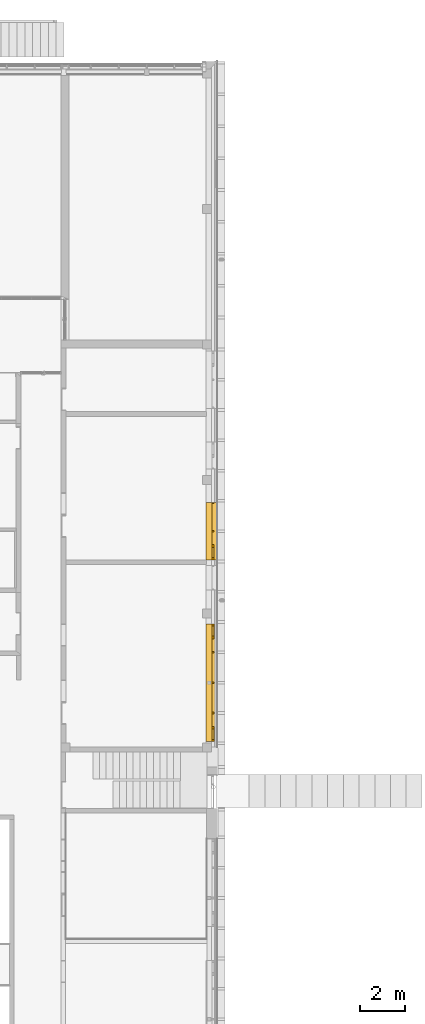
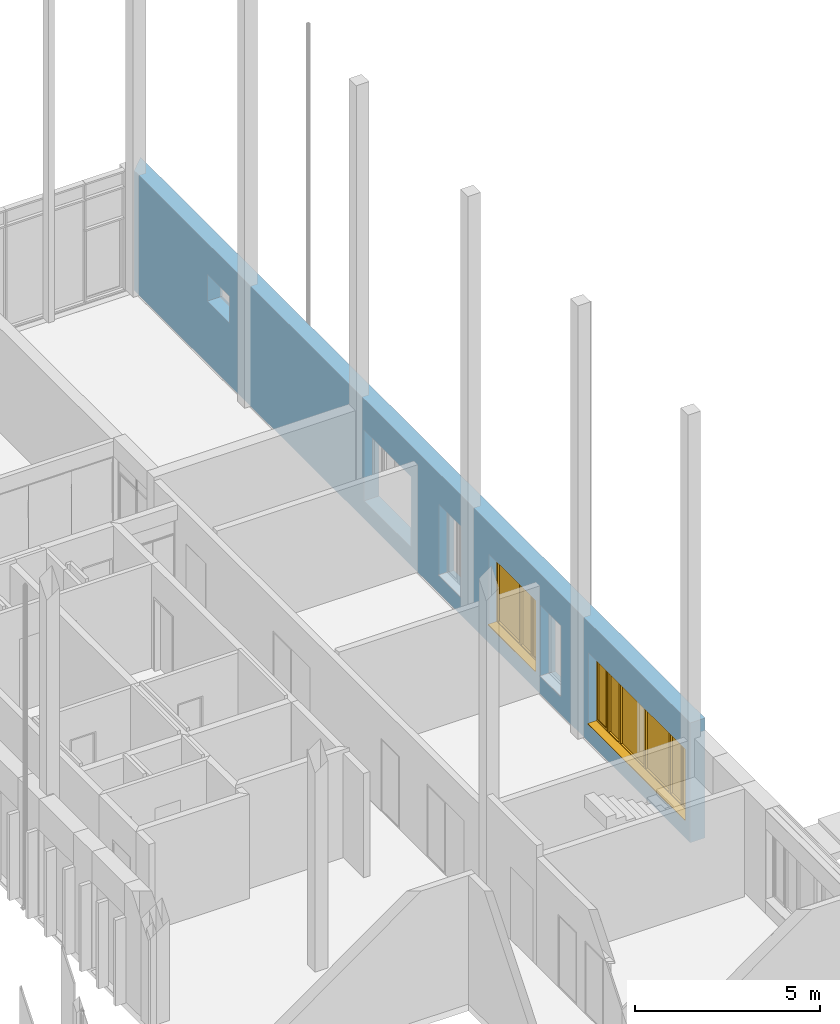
# One storey, part 41 of 89: 2 windows, 6 openings, plus 1 element that does not belong to this part.
"""IFC2X3 building model written with IfcOpenShell, lengths in millimetres."""

from ifc_helpers import new_model, entity, si_unit, converted_unit, derived_unit, money_unit, direction, frame, origin_with_axes, origin_2d_with_axis, place, context, subcontext, project, spatial, polyline, rectangle, outline, extrude, open_shell, faceted_brep, surface_model, material, layer, layer_set, layer_usage, type_object, element, fill, save


model = new_model("IFC2X3")

# Units and contexts
model_context = context("Model", 3, precision=0.01, world=origin_with_axes(), true_north=direction((0.0, 1.0)))
body_context = subcontext(model_context, "Body", "Model", "MODEL_VIEW")
ifc_project = project(units=[si_unit("LENGTHUNIT", "METRE", prefix="MILLI"), si_unit("AREAUNIT", "SQUARE_METRE"), si_unit("VOLUMEUNIT", "CUBIC_METRE"), converted_unit("PLANEANGLEUNIT", "DEGREE", entity("IfcPlaneAngleMeasure", 0.0174532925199), si_unit("PLANEANGLEUNIT", "RADIAN"), dimensions=[0, 0, 0, 0, 0, 0, 0]), si_unit("SOLIDANGLEUNIT", "STERADIAN"), money_unit("EUR"), converted_unit("TIMEUNIT", "Year", entity("IfcTimeMeasure", 31556926.0), si_unit("TIMEUNIT", "SECOND"), dimensions=[0, 0, 1, 0, 0, 0, 0]), si_unit("MASSUNIT", "GRAM", prefix="KILO"), si_unit("THERMODYNAMICTEMPERATUREUNIT", "DEGREE_CELSIUS"), si_unit("LUMINOUSINTENSITYUNIT", "LUMEN"), si_unit("ENERGYUNIT", "JOULE", prefix="MEGA"), derived_unit("THERMALCONDUCTANCEUNIT", [(si_unit("POWERUNIT", "WATT"), 1), (si_unit("LENGTHUNIT", "METRE"), -1), (si_unit("THERMODYNAMICTEMPERATUREUNIT", "KELVIN"), -1)]), derived_unit("SPECIFICHEATCAPACITYUNIT", [(si_unit("ENERGYUNIT", "JOULE"), 1), (si_unit("MASSUNIT", "GRAM", prefix="KILO"), -1), (si_unit("THERMODYNAMICTEMPERATUREUNIT", "KELVIN"), -1)]), derived_unit("MASSDENSITYUNIT", [(si_unit("MASSUNIT", "GRAM", prefix="KILO"), 1), (si_unit("VOLUMEUNIT", "CUBIC_METRE"), -1)])], contexts=[model_context])

# Site, building, storey
site_placement = place(None, origin_with_axes())
site = spatial("IfcSite", under=ifc_project, at=site_placement, Name="Puškini 31, Narva", CompositionType="ELEMENT")
building_placement = place(site_placement, origin_with_axes())
building = spatial("IfcBuilding", under=site, at=building_placement, Name="Narva Riigigümnaasium", CompositionType="ELEMENT")
storey_placement = place(building_placement, frame((0.0, 0.0, -3300.0), z_axis=(0.0, 0.0, 1.0), x_axis=(1.0, 0.0, 0.0)))
storey = spatial("IfcBuildingStorey", under=building, at=storey_placement, Name="1.korrus -3.3", CompositionType="ELEMENT", Elevation=-3300.0)

# Wall, openings, windows
ifc_material_1 = material(Name="fassaadiplaat")
ifc_layer_1 = layer(ifc_material_1, 8.0, ventilated="UNKNOWN")
ifc_material_2 = material(Name="Salto-roovitus")
ifc_layer_2 = layer(ifc_material_2, 50.0, ventilated="UNKNOWN")
ifc_material_3 = material(Name="Salto-PIR soojustus")
ifc_layer_3 = layer(ifc_material_3, 50.0, ventilated="UNKNOWN")
ifc_layer_4 = layer(ifc_material_3, 150.0, ventilated="UNKNOWN")
ifc_material_4 = material(Name="Betoon element")
ifc_layer_5 = layer(ifc_material_4, 200.0, ventilated="UNKNOWN")
ifc_material_5 = material(Name="Salto-siseviimistlus-seinad")
ifc_layer_6 = layer(ifc_material_5, 10.0, ventilated="UNKNOWN")
ifc_layer_set = layer_set([ifc_layer_1, ifc_layer_2, ifc_layer_3, ifc_layer_4, ifc_layer_5, ifc_layer_6], Name="G-VS-01")
ifc_layer_usage = layer_usage(ifc_layer_set, "AXIS2", "NEGATIVE", 458.0)
wall_type = type_object("IfcWallType", Name="G-VS-01 468", PredefinedType="NOTDEFINED")
wall_placement = place(storey_placement, frame((54000.0000017, 254108.805854, 0.0), z_axis=(0.0, 0.0, 1.0), x_axis=(0.0, -1.0, 0.0)))
wall = element("IfcWallStandardCase", 1, at=wall_placement, inside=storey, type_object=wall_type, material=ifc_layer_usage, Name="Välissein", context=body_context, shape_type="SweptSolid", body=[
    extrude(outline(polyline([(9.99999999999, -10.0), (30098.8058544, -10.0), (30098.8058544, 458.0), (-458.0, 458.0), (9.99999999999, -10.0)])), origin_with_axes(), (0.0, 0.0, 1.0), 3959.99999955),
])
opening_1_placement = place(wall_placement, frame((27228.5691061, 0.0, 600.0), z_axis=(0.0, 0.0, 1.0), x_axis=(1.0, 0.0, 0.0)))
opening_1 = element("IfcOpeningElement", 2, at=opening_1_placement, cuts=wall, Name="G-A-25", context=body_context, shape_type="SweptSolid", body=[
    extrude(rectangle(XDim=5250.0, YDim=2340.0, at=origin_2d_with_axis()), frame((0.0, 308.0, 1170.0), z_axis=(0.0, -1.0, 0.0), x_axis=(1.0, 0.0, 0.0)), (0.0, 0.0, 1.0), 786.0),
    extrude(rectangle(XDim=5250.0, YDim=2340.0, at=origin_2d_with_axis()), frame((0.0, 308.0, 1170.0), z_axis=(0.0, 1.0, 0.0), x_axis=(1.0, 0.0, 0.0)), (0.0, 0.0, 1.0), 618.0),
])
opening_2_placement = place(wall_placement, frame((20478.5691061, 0.0, 600.0), z_axis=(0.0, 0.0, 1.0), x_axis=(1.0, 0.0, 0.0)))
opening_2 = element("IfcOpeningElement", 3, at=opening_2_placement, cuts=wall, Name="G-A-15", context=body_context, shape_type="SweptSolid", body=[
    extrude(rectangle(XDim=2550.0, YDim=2340.0, at=origin_2d_with_axis()), frame((0.0, 308.0, 1170.0), z_axis=(0.0, 1.0, 0.0), x_axis=(-1.0, 0.0, 0.0)), (0.0, 0.0, -1.0), 786.0),
    extrude(rectangle(XDim=2550.0, YDim=2340.0, at=origin_2d_with_axis()), frame((0.0, 308.0, 1170.0), z_axis=(0.0, -1.0, 0.0), x_axis=(-1.0, 0.0, 0.0)), (0.0, 0.0, -1.0), 618.0),
])
opening_3_placement = place(wall_placement, frame((17103.5691061, 0.0, 600.0), z_axis=(0.0, 0.0, 1.0), x_axis=(1.0, 0.0, 0.0)))
element("IfcOpeningElement", 4, at=opening_3_placement, cuts=wall, Name="G-A-06", context=body_context, shape_type="SweptSolid", body=[
    extrude(rectangle(XDim=1200.0, YDim=2340.0, at=origin_2d_with_axis()), frame((0.0, 308.0, 1170.0), z_axis=(0.0, -1.0, 0.0), x_axis=(1.0, 0.0, 0.0)), (0.0, 0.0, 1.0), 786.0),
    extrude(rectangle(XDim=1200.0, YDim=2340.0, at=origin_2d_with_axis()), frame((0.0, 308.0, 1170.0), z_axis=(0.0, 1.0, 0.0), x_axis=(1.0, 0.0, 0.0)), (0.0, 0.0, 1.0), 618.0),
])
opening_4_placement = place(wall_placement, frame((13728.5691061, 0.0, 600.0), z_axis=(0.0, 0.0, 1.0), x_axis=(1.0, 0.0, 0.0)))
element("IfcOpeningElement", 5, at=opening_4_placement, cuts=wall, Name="G-A-15", context=body_context, shape_type="SweptSolid", body=[
    extrude(rectangle(XDim=2550.0, YDim=2340.0, at=origin_2d_with_axis()), frame((0.0, 308.0, 1170.0), z_axis=(0.0, -1.0, 0.0), x_axis=(1.0, 0.0, 0.0)), (0.0, 0.0, 1.0), 786.0),
    extrude(rectangle(XDim=2550.0, YDim=2340.0, at=origin_2d_with_axis()), frame((0.0, 308.0, 1170.0), z_axis=(0.0, 1.0, 0.0), x_axis=(1.0, 0.0, 0.0)), (0.0, 0.0, 1.0), 618.0),
])
opening_5_placement = place(wall_placement, frame((22553.5691061, 0.0, 600.0), z_axis=(0.0, 0.0, 1.0), x_axis=(1.0, 0.0, 0.0)))
element("IfcOpeningElement", 6, at=opening_5_placement, cuts=wall, Name="G-A-35", context=body_context, shape_type="SweptSolid", body=[
    extrude(rectangle(XDim=1100.0, YDim=2340.0, at=origin_2d_with_axis()), frame((0.0, 308.0, 1170.0), z_axis=(0.0, -1.0, 0.0), x_axis=(1.0, 0.0, 0.0)), (0.0, 0.0, 1.0), 786.0),
    extrude(rectangle(XDim=1100.0, YDim=2340.0, at=origin_2d_with_axis()), frame((0.0, 308.0, 1170.0), z_axis=(0.0, 1.0, 0.0), x_axis=(1.0, 0.0, 0.0)), (0.0, 0.0, 1.0), 618.0),
])
opening_6_placement = place(wall_placement, frame((4563.8084994, 0.0, 2049.99999046), z_axis=(0.0, 0.0, 1.0), x_axis=(1.0, 0.0, 0.0)))
element("IfcOpeningElement", 7, at=opening_6_placement, cuts=wall, Name="G-SL-02", context=body_context, shape_type="SweptSolid", body=[
    extrude(rectangle(XDim=1190.0, YDim=890.0, at=origin_2d_with_axis()), frame((0.0, -468.0, 445.0), z_axis=(0.0, -1.0, 0.0), x_axis=(-1.0, 0.0, 0.0)), (0.0, 0.0, -1.0), 1404.0),
])
window_style_1 = type_object("IfcWindowStyle", Name="Horizontal Multi-Sash Window 23", ConstructionType="NOTDEFINED", OperationType="USERDEFINED", ParameterTakesPrecedence=False, Sizeable=False)
window_1_placement = place(opening_1_placement, frame((2625.0, 0.0, 0.0), z_axis=(0.0, 0.0, 1.0), x_axis=(-1.0, 0.0, 0.0)))
window_1 = element("IfcWindow", 8, at=window_1_placement, inside=storey, type_object=window_style_1, Name="G-A-25", ObjectType="WINDOW", OverallHeight=2340.0, OverallWidth=5250.0, context=body_context, shape_type="SurfaceModel", body=[
    surface_model("IfcShellBasedSurfaceModel", [(5250.0, -309.0, 50.0), (0.0, -309.0, 50.0), (0.0, -309.0, 40.0), (5250.0, -309.0, 40.0), (0.0, -488.0, 28.0), (5250.0, -488.0, 28.0), (0.0, -488.0, 8.0), (5250.0, -488.0, 8.0), (0.0, -478.0, 18.0), (5250.0, -478.0, 18.0)], [open_shell([[[0, 1, 2, 3]], [[3, 2, 4, 5]], [[5, 4, 6, 7]], [[7, 6, 8, 9]]])]),
    faceted_brep([(0.0, -233.0, 0.0), (0.0, -233.0, 25.0), (0.0, 10.0, 25.0), (0.0, 10.0, 0.0), (5250.0, -233.0, 0.0), (5250.0, -233.0, 25.0), (5250.0, 10.0, 25.0), (5250.0, 40.0, 25.0), (0.0, 40.0, 25.0), (0.0, 40.0, 0.0), (5250.0, 40.0, 0.0), (5250.0, 10.0, 0.0)], [[[0, 1, 2, 3]], [[4, 5, 1, 0]], [[1, 5, 6, 7, 8, 2]], [[3, 2, 8, 9]], [[0, 3, 9, 10, 11, 4]], [[11, 6, 5, 4]], [[10, 7, 6, 11]], [[9, 8, 7, 10]]]),
    faceted_brep([(5210.0, -233.0, 2290.0), (5210.0, -303.0, 2290.0), (5200.0, -303.0, 2290.0), (5200.0, -308.0, 2290.0), (5250.0, -308.0, 2290.0), (5250.0, -233.0, 2290.0), (5210.0, -233.0, 50.0), (5210.0, -303.0, 50.0), (5200.0, -303.0, 50.0), (5200.0, -308.0, 50.0), (5250.0, -308.0, 50.0), (5250.0, -233.0, 50.0)], [[[0, 1, 2, 3, 4, 5]], [[1, 0, 6, 7]], [[8, 2, 1, 7]], [[2, 8, 9, 3]], [[4, 3, 9, 10]], [[5, 4, 10, 11]], [[6, 0, 5, 11]], [[7, 6, 11, 10, 9, 8]]]),
    faceted_brep([(50.0, -303.0, 2290.0), (40.0, -303.0, 2290.0), (40.0, -233.0, 2290.0), (0.0, -233.0, 2290.0), (0.0, -308.0, 2290.0), (50.0, -308.0, 2290.0), (50.0, -303.0, 50.0), (40.0, -303.0, 50.0), (40.0, -233.0, 50.0), (0.0, -233.0, 50.0), (0.0, -308.0, 50.0), (50.0, -308.0, 50.0)], [[[0, 1, 2, 3, 4, 5]], [[1, 0, 6, 7]], [[8, 2, 1, 7]], [[2, 8, 9, 3]], [[9, 10, 4, 3]], [[10, 11, 5, 4]], [[6, 0, 5, 11]], [[7, 6, 11, 10, 9, 8]]]),
    faceted_brep([(5210.0, -233.0, 2290.0), (5210.0, -233.0, 2300.0), (4639.5, -233.0, 2300.0), (4639.5, -233.0, 2290.0), (4574.5, -233.0, 2290.0), (4012.5, -233.0, 2290.0), (3937.5, -233.0, 2290.0), (2662.5, -233.0, 2290.0), (2587.5, -233.0, 2290.0), (1312.5, -233.0, 2290.0), (1237.5, -233.0, 2290.0), (675.5, -233.0, 2290.0), (610.5, -233.0, 2290.0), (610.5, -233.0, 2300.0), (40.0, -233.0, 2300.0), (40.0, -233.0, 2290.0), (0.0, -233.0, 2290.0), (0.0, -233.0, 2340.0), (5250.0, -233.0, 2340.0), (5250.0, -233.0, 2290.0), (5210.0, -303.0, 2290.0), (5210.0, -303.0, 2300.0), (4639.5, -303.0, 2300.0), (4639.5, -303.0, 2290.0), (4649.5, -303.0, 2290.0), (4649.5, -308.0, 2290.0), (4574.5, -308.0, 2290.0), (4012.5, -308.0, 2290.0), (3937.5, -308.0, 2290.0), (2662.5, -308.0, 2290.0), (2587.5, -308.0, 2290.0), (1312.5, -308.0, 2290.0), (1237.5, -308.0, 2290.0), (675.5, -308.0, 2290.0), (610.5, -303.0, 2290.0), (600.5, -308.0, 2290.0), (600.5, -303.0, 2290.0), (610.5, -303.0, 2300.0), (40.0, -303.0, 2300.0), (40.0, -303.0, 2290.0), (50.0, -303.0, 2290.0), (50.0, -308.0, 2290.0), (0.0, -308.0, 2290.0), (0.0, -308.0, 2340.0), (5250.0, -308.0, 2340.0), (5250.0, -308.0, 2290.0), (5200.0, -308.0, 2290.0), (5200.0, -303.0, 2290.0)], [[[0, 1, 2, 3, 4, 5, 6, 7, 8, 9, 10, 11, 12, 13, 14, 15, 16, 17, 18, 19]], [[1, 0, 20, 21]], [[2, 1, 21, 22]], [[3, 2, 22, 23]], [[23, 24, 25, 26, 4, 3]], [[4, 26, 27, 5]], [[5, 27, 28, 6]], [[6, 28, 29, 7]], [[7, 29, 30, 8]], [[8, 30, 31, 9]], [[9, 31, 32, 10]], [[10, 32, 33, 11]], [[34, 12, 11, 33, 35, 36]], [[13, 12, 34, 37]], [[14, 13, 37, 38]], [[15, 14, 38, 39]], [[39, 40, 41, 42, 16, 15]], [[16, 42, 43, 17]], [[17, 43, 44, 18]], [[18, 44, 45, 19]], [[20, 0, 19, 45, 46, 47]], [[24, 23, 22, 21, 20, 47]], [[24, 47, 46, 25]], [[42, 41, 35, 33, 32, 31, 30, 29, 28, 27, 26, 25, 46, 45, 44, 43]], [[40, 36, 35, 41]], [[40, 39, 38, 37, 34, 36]]]),
    faceted_brep([(4649.5, -303.0, 50.0), (4639.5, -303.0, 50.0), (4639.5, -233.0, 50.0), (4574.5, -233.0, 50.0), (4574.5, -308.0, 50.0), (4649.5, -308.0, 50.0), (5200.0, -303.0, 50.0), (5210.0, -303.0, 50.0), (5210.0, -303.0, 40.0), (4639.5, -303.0, 40.0), (4639.5, -233.0, 40.0), (5210.0, -233.0, 40.0), (5210.0, -233.0, 50.0), (5250.0, -233.0, 50.0), (5250.0, -233.0, 0.0), (0.0, -233.0, 0.0), (0.0, -233.0, 50.0), (40.0, -233.0, 50.0), (40.0, -233.0, 40.0), (610.5, -233.0, 40.0), (610.5, -233.0, 50.0), (675.5, -233.0, 50.0), (1237.5, -233.0, 50.0), (1312.5, -233.0, 50.0), (2587.5, -233.0, 50.0), (2662.5, -233.0, 50.0), (3937.5, -233.0, 50.0), (4012.5, -233.0, 50.0), (4012.5, -308.0, 50.0), (675.5, -308.0, 50.0), (600.5, -308.0, 50.0), (50.0, -308.0, 50.0), (0.0, -308.0, 50.0), (0.0, -308.0, 0.0), (5250.0, -308.0, 0.0), (5250.0, -308.0, 50.0), (5200.0, -308.0, 50.0), (3937.5, -308.0, 50.0), (2662.5, -308.0, 50.0), (2587.5, -308.0, 50.0), (1312.5, -308.0, 50.0), (1237.5, -308.0, 50.0), (50.0, -303.0, 50.0), (40.0, -303.0, 50.0), (40.0, -303.0, 40.0), (610.5, -303.0, 40.0), (610.5, -303.0, 50.0), (600.5, -303.0, 50.0)], [[[0, 1, 2, 3, 4, 5]], [[1, 0, 6, 7, 8, 9]], [[10, 2, 1, 9]], [[11, 12, 13, 14, 15, 16, 17, 18, 19, 20, 21, 22, 23, 24, 25, 26, 27, 3, 2, 10]], [[27, 28, 4, 3]], [[29, 30, 31, 32, 33, 34, 35, 36, 5, 4, 28, 37, 38, 39, 40, 41]], [[6, 0, 5, 36]], [[7, 6, 36, 35, 13, 12]], [[7, 12, 11, 8]], [[11, 10, 9, 8]], [[13, 35, 34, 14]], [[14, 34, 33, 15]], [[15, 33, 32, 16]], [[42, 43, 17, 16, 32, 31]], [[18, 17, 43, 44]], [[19, 18, 44, 45]], [[46, 20, 19, 45]], [[46, 47, 30, 29, 21, 20]], [[21, 29, 41, 22]], [[22, 41, 40, 23]], [[23, 40, 39, 24]], [[24, 39, 38, 25]], [[25, 38, 37, 26]], [[26, 37, 28, 27]], [[47, 42, 31, 30]], [[43, 42, 47, 46, 45, 44]]]),
    faceted_brep([(4649.5, -303.0, 2290.0), (4639.5, -303.0, 2290.0), (4639.5, -233.0, 2290.0), (4574.5, -233.0, 2290.0), (4574.5, -308.0, 2290.0), (4649.5, -308.0, 2290.0), (4649.5, -303.0, 50.0), (4639.5, -303.0, 50.0), (4639.5, -233.0, 50.0), (4574.5, -233.0, 50.0), (4574.5, -308.0, 50.0), (4649.5, -308.0, 50.0)], [[[0, 1, 2, 3, 4, 5]], [[1, 0, 6, 7]], [[8, 2, 1, 7]], [[2, 8, 9, 3]], [[9, 10, 4, 3]], [[4, 10, 11, 5]], [[6, 0, 5, 11]], [[7, 6, 11, 10, 9, 8]]]),
    faceted_brep([(3937.5, -233.0, 50.0), (3937.5, -308.0, 50.0), (3937.5, -308.0, 2290.0), (3937.5, -233.0, 2290.0), (4012.5, -233.0, 50.0), (4012.5, -308.0, 50.0), (4012.5, -308.0, 2290.0), (4012.5, -233.0, 2290.0)], [[[0, 1, 2, 3]], [[4, 5, 1, 0]], [[2, 1, 5, 6]], [[3, 2, 6, 7]], [[4, 0, 3, 7]], [[7, 6, 5, 4]]]),
    faceted_brep([(2587.5, -233.0, 50.0), (2587.5, -308.0, 50.0), (2587.5, -308.0, 2290.0), (2587.5, -233.0, 2290.0), (2662.5, -233.0, 50.0), (2662.5, -308.0, 50.0), (2662.5, -308.0, 2290.0), (2662.5, -233.0, 2290.0)], [[[0, 1, 2, 3]], [[4, 5, 1, 0]], [[2, 1, 5, 6]], [[3, 2, 6, 7]], [[4, 0, 3, 7]], [[7, 6, 5, 4]]]),
    faceted_brep([(1237.5, -233.0, 50.0), (1237.5, -308.0, 50.0), (1237.5, -308.0, 2290.0), (1237.5, -233.0, 2290.0), (1312.5, -233.0, 50.0), (1312.5, -308.0, 50.0), (1312.5, -308.0, 2290.0), (1312.5, -233.0, 2290.0)], [[[0, 1, 2, 3]], [[4, 5, 1, 0]], [[2, 1, 5, 6]], [[3, 2, 6, 7]], [[4, 0, 3, 7]], [[7, 6, 5, 4]]]),
    faceted_brep([(610.5, -233.0, 2290.0), (610.5, -303.0, 2290.0), (600.5, -303.0, 2290.0), (600.5, -308.0, 2290.0), (675.5, -308.0, 2290.0), (675.5, -233.0, 2290.0), (610.5, -233.0, 50.0), (610.5, -303.0, 50.0), (600.5, -303.0, 50.0), (600.5, -308.0, 50.0), (675.5, -308.0, 50.0), (675.5, -233.0, 50.0)], [[[0, 1, 2, 3, 4, 5]], [[1, 0, 6, 7]], [[8, 2, 1, 7]], [[2, 8, 9, 3]], [[3, 9, 10, 4]], [[5, 4, 10, 11]], [[6, 0, 5, 11]], [[7, 6, 11, 10, 9, 8]]]),
    faceted_brep([(5150.0, -303.0, 2240.0), (5210.0, -303.0, 2240.0), (5210.0, -218.0, 2240.0), (5150.0, -218.0, 2240.0), (5150.0, -303.0, 100.0), (5210.0, -303.0, 100.0), (5210.0, -218.0, 100.0), (5150.0, -218.0, 100.0)], [[[0, 1, 2, 3]], [[0, 4, 5, 1]], [[1, 5, 6, 2]], [[3, 2, 6, 7]], [[4, 0, 3, 7]], [[5, 4, 7, 6]]]),
    faceted_brep([(4699.5, -303.0, 100.0), (4639.5, -303.0, 100.0), (4639.5, -218.0, 100.0), (4699.5, -218.0, 100.0), (4699.5, -303.0, 2240.0), (4639.5, -303.0, 2240.0), (4639.5, -218.0, 2240.0), (4699.5, -218.0, 2240.0)], [[[0, 1, 2, 3]], [[0, 4, 5, 1]], [[1, 5, 6, 2]], [[3, 2, 6, 7]], [[4, 0, 3, 7]], [[5, 4, 7, 6]]]),
    faceted_brep([(4639.5, -303.0, 40.0), (4639.5, -303.0, 100.0), (4639.5, -218.0, 100.0), (4639.5, -218.0, 40.0), (5210.0, -303.0, 40.0), (5210.0, -303.0, 100.0), (5150.0, -303.0, 100.0), (4699.5, -303.0, 100.0), (4699.5, -218.0, 100.0), (5150.0, -218.0, 100.0), (5210.0, -218.0, 100.0), (5210.0, -218.0, 40.0)], [[[0, 1, 2, 3]], [[0, 4, 5, 6, 7, 1]], [[1, 7, 8, 2]], [[3, 2, 8, 9, 10, 11]], [[4, 0, 3, 11]], [[5, 4, 11, 10]], [[6, 5, 10, 9]], [[7, 6, 9, 8]]]),
    faceted_brep([(5210.0, -303.0, 2300.0), (5210.0, -303.0, 2240.0), (5210.0, -218.0, 2240.0), (5210.0, -218.0, 2300.0), (4639.5, -303.0, 2300.0), (4639.5, -303.0, 2240.0), (4699.5, -303.0, 2240.0), (5150.0, -303.0, 2240.0), (5150.0, -218.0, 2240.0), (4699.5, -218.0, 2240.0), (4639.5, -218.0, 2240.0), (4639.5, -218.0, 2300.0)], [[[0, 1, 2, 3]], [[0, 4, 5, 6, 7, 1]], [[1, 7, 8, 2]], [[3, 2, 8, 9, 10, 11]], [[4, 0, 3, 11]], [[5, 4, 11, 10]], [[6, 5, 10, 9]], [[7, 6, 9, 8]]]),
    surface_model("IfcShellBasedSurfaceModel", [(5150.0, -270.5, 100.0), (5150.0, -270.5, 2240.0), (4699.5, -270.5, 2240.0), (4699.5, -270.5, 100.0)], [open_shell([[[0, 1, 2, 3]]])]),
    surface_model("IfcShellBasedSurfaceModel", [(5150.0, -250.5, 100.0), (4699.5, -250.5, 100.0), (4699.5, -250.5, 2240.0), (5150.0, -250.5, 2240.0)], [open_shell([[[0, 1, 2, 3]]])]),
    surface_model("IfcShellBasedSurfaceModel", [(4574.5, -313.0, 50.0), (4574.5, -313.0, 2290.0), (4012.5, -313.0, 2290.0), (4012.5, -313.0, 50.0)], [open_shell([[[0, 1, 2, 3]]])]),
    surface_model("IfcShellBasedSurfaceModel", [(4574.5, -293.0, 50.0), (4012.5, -293.0, 50.0), (4012.5, -293.0, 2290.0), (4574.5, -293.0, 2290.0)], [open_shell([[[0, 1, 2, 3]]])]),
    surface_model("IfcShellBasedSurfaceModel", [(3937.5, -313.0, 50.0), (3937.5, -313.0, 2290.0), (2662.5, -313.0, 2290.0), (2662.5, -313.0, 50.0)], [open_shell([[[0, 1, 2, 3]]])]),
    surface_model("IfcShellBasedSurfaceModel", [(3937.5, -293.0, 50.0), (2662.5, -293.0, 50.0), (2662.5, -293.0, 2290.0), (3937.5, -293.0, 2290.0)], [open_shell([[[0, 1, 2, 3]]])]),
    surface_model("IfcShellBasedSurfaceModel", [(2587.5, -313.0, 50.0), (2587.5, -313.0, 2290.0), (1312.5, -313.0, 2290.0), (1312.5, -313.0, 50.0)], [open_shell([[[0, 1, 2, 3]]])]),
    surface_model("IfcShellBasedSurfaceModel", [(2587.5, -293.0, 50.0), (1312.5, -293.0, 50.0), (1312.5, -293.0, 2290.0), (2587.5, -293.0, 2290.0)], [open_shell([[[0, 1, 2, 3]]])]),
    surface_model("IfcShellBasedSurfaceModel", [(1237.5, -313.0, 50.0), (1237.5, -313.0, 2290.0), (675.5, -313.0, 2290.0), (675.5, -313.0, 50.0)], [open_shell([[[0, 1, 2, 3]]])]),
    surface_model("IfcShellBasedSurfaceModel", [(1237.5, -293.0, 50.0), (675.5, -293.0, 50.0), (675.5, -293.0, 2290.0), (1237.5, -293.0, 2290.0)], [open_shell([[[0, 1, 2, 3]]])]),
    faceted_brep([(550.5, -303.0, 2240.0), (610.5, -303.0, 2240.0), (610.5, -218.0, 2240.0), (550.5, -218.0, 2240.0), (550.5, -303.0, 100.0), (610.5, -303.0, 100.0), (610.5, -218.0, 100.0), (550.5, -218.0, 100.0)], [[[0, 1, 2, 3]], [[0, 4, 5, 1]], [[1, 5, 6, 2]], [[3, 2, 6, 7]], [[4, 0, 3, 7]], [[5, 4, 7, 6]]]),
    faceted_brep([(100.0, -303.0, 100.0), (40.0, -303.0, 100.0), (40.0, -218.0, 100.0), (100.0, -218.0, 100.0), (100.0, -303.0, 2240.0), (40.0, -303.0, 2240.0), (40.0, -218.0, 2240.0), (100.0, -218.0, 2240.0)], [[[0, 1, 2, 3]], [[0, 4, 5, 1]], [[1, 5, 6, 2]], [[3, 2, 6, 7]], [[4, 0, 3, 7]], [[5, 4, 7, 6]]]),
    faceted_brep([(40.0, -303.0, 40.0), (40.0, -303.0, 100.0), (40.0, -218.0, 100.0), (40.0, -218.0, 40.0), (610.5, -303.0, 40.0), (610.5, -303.0, 100.0), (550.5, -303.0, 100.0), (100.0, -303.0, 100.0), (100.0, -218.0, 100.0), (550.5, -218.0, 100.0), (610.5, -218.0, 100.0), (610.5, -218.0, 40.0)], [[[0, 1, 2, 3]], [[0, 4, 5, 6, 7, 1]], [[1, 7, 8, 2]], [[3, 2, 8, 9, 10, 11]], [[4, 0, 3, 11]], [[5, 4, 11, 10]], [[6, 5, 10, 9]], [[7, 6, 9, 8]]]),
    faceted_brep([(610.5, -303.0, 2300.0), (610.5, -303.0, 2240.0), (610.5, -218.0, 2240.0), (610.5, -218.0, 2300.0), (40.0, -303.0, 2300.0), (40.0, -303.0, 2240.0), (100.0, -303.0, 2240.0), (550.5, -303.0, 2240.0), (550.5, -218.0, 2240.0), (100.0, -218.0, 2240.0), (40.0, -218.0, 2240.0), (40.0, -218.0, 2300.0)], [[[0, 1, 2, 3]], [[0, 4, 5, 6, 7, 1]], [[1, 7, 8, 2]], [[3, 2, 8, 9, 10, 11]], [[4, 0, 3, 11]], [[5, 4, 11, 10]], [[6, 5, 10, 9]], [[7, 6, 9, 8]]]),
    surface_model("IfcShellBasedSurfaceModel", [(550.5, -270.5, 100.0), (550.5, -270.5, 2240.0), (100.0, -270.5, 2240.0), (100.0, -270.5, 100.0)], [open_shell([[[0, 1, 2, 3]]])]),
    surface_model("IfcShellBasedSurfaceModel", [(550.5, -250.5, 100.0), (100.0, -250.5, 100.0), (100.0, -250.5, 2240.0), (550.5, -250.5, 2240.0)], [open_shell([[[0, 1, 2, 3]]])]),
])
fill(opening_1, window_1)
window_style_2 = type_object("IfcWindowStyle", Name="Horizontal Multi-Sash Window 23", ConstructionType="NOTDEFINED", OperationType="TRIPLE_PANEL_VERTICAL", ParameterTakesPrecedence=False, Sizeable=False)
window_2_placement = place(opening_2_placement, frame((1275.0, 0.0, 0.0), z_axis=(0.0, 0.0, 1.0), x_axis=(-1.0, 0.0, 0.0)))
window_2 = element("IfcWindow", 9, at=window_2_placement, inside=storey, type_object=window_style_2, Name="G-A-15", ObjectType="WINDOW", OverallHeight=2340.0, OverallWidth=2550.0, context=body_context, shape_type="SurfaceModel", body=[
    surface_model("IfcShellBasedSurfaceModel", [(0.0, -309.0, 50.0), (0.0, -309.0, 40.0), (2550.0, -309.0, 40.0), (2550.0, -309.0, 50.0), (0.0, -488.0, 28.0), (2550.0, -488.0, 28.0), (0.0, -488.0, 8.0), (2550.0, -488.0, 8.0), (0.0, -478.0, 18.0), (2550.0, -478.0, 18.0)], [open_shell([[[0, 1, 2, 3]], [[1, 4, 5, 2]], [[4, 6, 7, 5]], [[6, 8, 9, 7]]])]),
    faceted_brep([(2550.0, -233.0, 0.0), (2550.0, 10.0, 0.0), (2550.0, 10.0, 25.0), (2550.0, -233.0, 25.0), (0.0, -233.0, 0.0), (0.0, 10.0, 0.0), (0.0, 40.0, 0.0), (2550.0, 40.0, 0.0), (2550.0, 40.0, 25.0), (0.0, 40.0, 25.0), (0.0, 10.0, 25.0), (0.0, -233.0, 25.0)], [[[0, 1, 2, 3]], [[0, 4, 5, 6, 7, 1]], [[1, 7, 8, 2]], [[3, 2, 8, 9, 10, 11]], [[4, 0, 3, 11]], [[5, 4, 11, 10]], [[6, 5, 10, 9]], [[7, 6, 9, 8]]]),
    faceted_brep([(40.0, -233.0, 2290.0), (0.0, -233.0, 2290.0), (0.0, -308.0, 2290.0), (50.0, -308.0, 2290.0), (50.0, -303.0, 2290.0), (40.0, -303.0, 2290.0), (40.0, -233.0, 50.0), (0.0, -233.0, 50.0), (0.0, -308.0, 50.0), (50.0, -308.0, 50.0), (50.0, -303.0, 50.0), (40.0, -303.0, 50.0)], [[[0, 1, 2, 3, 4, 5]], [[6, 7, 1, 0]], [[1, 7, 8, 2]], [[2, 8, 9, 3]], [[4, 3, 9, 10]], [[10, 11, 5, 4]], [[5, 11, 6, 0]], [[11, 10, 9, 8, 7, 6]]]),
    faceted_brep([(40.0, -233.0, 2290.0), (0.0, -233.0, 2290.0), (0.0, -233.0, 2340.0), (2550.0, -233.0, 2340.0), (2550.0, -233.0, 2290.0), (2500.0, -233.0, 2290.0), (1312.5, -233.0, 2290.0), (1237.5, -233.0, 2290.0), (675.5, -233.0, 2290.0), (610.5, -233.0, 2290.0), (610.5, -233.0, 2300.0), (40.0, -233.0, 2300.0), (40.0, -303.0, 2290.0), (50.0, -303.0, 2290.0), (50.0, -308.0, 2290.0), (0.0, -308.0, 2290.0), (0.0, -308.0, 2340.0), (2550.0, -308.0, 2340.0), (2550.0, -308.0, 2290.0), (2500.0, -308.0, 2290.0), (1312.5, -308.0, 2290.0), (1237.5, -308.0, 2290.0), (675.5, -308.0, 2290.0), (610.5, -303.0, 2290.0), (600.5, -308.0, 2290.0), (600.5, -303.0, 2290.0), (610.5, -303.0, 2300.0), (40.0, -303.0, 2300.0)], [[[0, 1, 2, 3, 4, 5, 6, 7, 8, 9, 10, 11]], [[12, 13, 14, 15, 1, 0]], [[2, 1, 15, 16]], [[3, 2, 16, 17]], [[4, 3, 17, 18]], [[5, 4, 18, 19]], [[6, 5, 19, 20]], [[7, 6, 20, 21]], [[8, 7, 21, 22]], [[23, 9, 8, 22, 24, 25]], [[9, 23, 26, 10]], [[10, 26, 27, 11]], [[11, 27, 12, 0]], [[25, 13, 12, 27, 26, 23]], [[25, 24, 14, 13]], [[18, 17, 16, 15, 14, 24, 22, 21, 20, 19]]]),
    faceted_brep([(600.5, -303.0, 50.0), (600.5, -308.0, 50.0), (675.5, -308.0, 50.0), (675.5, -233.0, 50.0), (610.5, -233.0, 50.0), (610.5, -303.0, 50.0), (50.0, -303.0, 50.0), (50.0, -308.0, 50.0), (1237.5, -308.0, 50.0), (0.0, -308.0, 50.0), (0.0, -308.0, 0.0), (2550.0, -308.0, 0.0), (2550.0, -308.0, 50.0), (2500.0, -308.0, 50.0), (1312.5, -308.0, 50.0), (1237.5, -233.0, 50.0), (40.0, -233.0, 40.0), (610.5, -233.0, 40.0), (1312.5, -233.0, 50.0), (2500.0, -233.0, 50.0), (2550.0, -233.0, 50.0), (2550.0, -233.0, 0.0), (0.0, -233.0, 0.0), (0.0, -233.0, 50.0), (40.0, -233.0, 50.0), (610.5, -303.0, 40.0), (40.0, -303.0, 40.0), (40.0, -303.0, 50.0)], [[[0, 1, 2, 3, 4, 5]], [[6, 7, 1, 0]], [[8, 2, 1, 7, 9, 10, 11, 12, 13, 14]], [[15, 3, 2, 8]], [[16, 17, 4, 3, 15, 18, 19, 20, 21, 22, 23, 24]], [[17, 25, 5, 4]], [[5, 25, 26, 27, 6, 0]], [[27, 24, 23, 9, 7, 6]], [[23, 22, 10, 9]], [[22, 21, 11, 10]], [[21, 20, 12, 11]], [[20, 19, 13, 12]], [[19, 18, 14, 13]], [[18, 15, 8, 14]], [[16, 26, 25, 17]], [[27, 26, 16, 24]]]),
    faceted_brep([(600.5, -303.0, 2290.0), (600.5, -308.0, 2290.0), (675.5, -308.0, 2290.0), (675.5, -233.0, 2290.0), (610.5, -233.0, 2290.0), (610.5, -303.0, 2290.0), (600.5, -303.0, 50.0), (600.5, -308.0, 50.0), (675.5, -308.0, 50.0), (675.5, -233.0, 50.0), (610.5, -233.0, 50.0), (610.5, -303.0, 50.0)], [[[0, 1, 2, 3, 4, 5]], [[6, 7, 1, 0]], [[2, 1, 7, 8]], [[9, 3, 2, 8]], [[4, 3, 9, 10]], [[10, 11, 5, 4]], [[5, 11, 6, 0]], [[11, 10, 9, 8, 7, 6]]]),
    faceted_brep([(2500.0, -308.0, 50.0), (2500.0, -233.0, 50.0), (2550.0, -233.0, 50.0), (2550.0, -308.0, 50.0), (2500.0, -308.0, 2290.0), (2500.0, -233.0, 2290.0), (2550.0, -233.0, 2290.0), (2550.0, -308.0, 2290.0)], [[[0, 1, 2, 3]], [[4, 5, 1, 0]], [[1, 5, 6, 2]], [[3, 2, 6, 7]], [[0, 3, 7, 4]], [[7, 6, 5, 4]]]),
    faceted_brep([(1312.5, -308.0, 50.0), (1312.5, -233.0, 50.0), (1312.5, -233.0, 2290.0), (1312.5, -308.0, 2290.0), (1237.5, -308.0, 50.0), (1237.5, -233.0, 50.0), (1237.5, -233.0, 2290.0), (1237.5, -308.0, 2290.0)], [[[0, 1, 2, 3]], [[4, 5, 1, 0]], [[1, 5, 6, 2]], [[3, 2, 6, 7]], [[0, 3, 7, 4]], [[7, 6, 5, 4]]]),
    faceted_brep([(100.0, -303.0, 2240.0), (100.0, -218.0, 2240.0), (40.0, -218.0, 2240.0), (40.0, -303.0, 2240.0), (100.0, -303.0, 100.0), (100.0, -218.0, 100.0), (40.0, -218.0, 100.0), (40.0, -303.0, 100.0)], [[[0, 1, 2, 3]], [[4, 5, 1, 0]], [[1, 5, 6, 2]], [[3, 2, 6, 7]], [[0, 3, 7, 4]], [[7, 6, 5, 4]]]),
    faceted_brep([(550.5, -303.0, 100.0), (550.5, -218.0, 100.0), (610.5, -218.0, 100.0), (610.5, -303.0, 100.0), (550.5, -303.0, 2240.0), (550.5, -218.0, 2240.0), (610.5, -218.0, 2240.0), (610.5, -303.0, 2240.0)], [[[0, 1, 2, 3]], [[4, 5, 1, 0]], [[1, 5, 6, 2]], [[3, 2, 6, 7]], [[0, 3, 7, 4]], [[7, 6, 5, 4]]]),
    faceted_brep([(610.5, -303.0, 40.0), (610.5, -218.0, 40.0), (610.5, -218.0, 100.0), (610.5, -303.0, 100.0), (40.0, -303.0, 40.0), (40.0, -218.0, 40.0), (40.0, -218.0, 100.0), (100.0, -218.0, 100.0), (550.5, -218.0, 100.0), (550.5, -303.0, 100.0), (100.0, -303.0, 100.0), (40.0, -303.0, 100.0)], [[[0, 1, 2, 3]], [[4, 5, 1, 0]], [[1, 5, 6, 7, 8, 2]], [[3, 2, 8, 9]], [[0, 3, 9, 10, 11, 4]], [[11, 6, 5, 4]], [[10, 7, 6, 11]], [[9, 8, 7, 10]]]),
    faceted_brep([(40.0, -303.0, 2300.0), (40.0, -218.0, 2300.0), (40.0, -218.0, 2240.0), (40.0, -303.0, 2240.0), (610.5, -303.0, 2300.0), (610.5, -218.0, 2300.0), (610.5, -218.0, 2240.0), (550.5, -218.0, 2240.0), (100.0, -218.0, 2240.0), (100.0, -303.0, 2240.0), (550.5, -303.0, 2240.0), (610.5, -303.0, 2240.0)], [[[0, 1, 2, 3]], [[4, 5, 1, 0]], [[1, 5, 6, 7, 8, 2]], [[3, 2, 8, 9]], [[0, 3, 9, 10, 11, 4]], [[11, 6, 5, 4]], [[10, 7, 6, 11]], [[9, 8, 7, 10]]]),
    surface_model("IfcShellBasedSurfaceModel", [(100.0, -270.5, 100.0), (550.5, -270.5, 100.0), (550.5, -270.5, 2240.0), (100.0, -270.5, 2240.0)], [open_shell([[[0, 1, 2, 3]]])]),
    surface_model("IfcShellBasedSurfaceModel", [(100.0, -250.5, 100.0), (100.0, -250.5, 2240.0), (550.5, -250.5, 2240.0), (550.5, -250.5, 100.0)], [open_shell([[[0, 1, 2, 3]]])]),
    surface_model("IfcShellBasedSurfaceModel", [(675.5, -313.0, 50.0), (1237.5, -313.0, 50.0), (1237.5, -313.0, 2290.0), (675.5, -313.0, 2290.0)], [open_shell([[[0, 1, 2, 3]]])]),
    surface_model("IfcShellBasedSurfaceModel", [(675.5, -293.0, 50.0), (675.5, -293.0, 2290.0), (1237.5, -293.0, 2290.0), (1237.5, -293.0, 50.0)], [open_shell([[[0, 1, 2, 3]]])]),
    surface_model("IfcShellBasedSurfaceModel", [(1312.5, -313.0, 50.0), (2500.0, -313.0, 50.0), (2500.0, -313.0, 2290.0), (1312.5, -313.0, 2290.0)], [open_shell([[[0, 1, 2, 3]]])]),
    surface_model("IfcShellBasedSurfaceModel", [(1312.5, -293.0, 50.0), (1312.5, -293.0, 2290.0), (2500.0, -293.0, 2290.0), (2500.0, -293.0, 50.0)], [open_shell([[[0, 1, 2, 3]]])]),
])
fill(opening_2, window_2)

save(model, "model.ifc")
